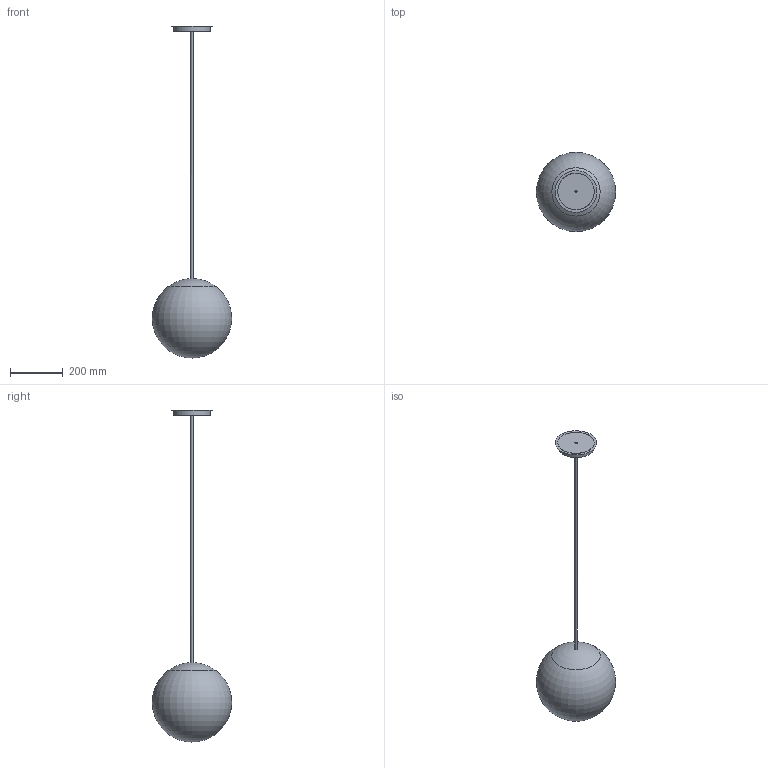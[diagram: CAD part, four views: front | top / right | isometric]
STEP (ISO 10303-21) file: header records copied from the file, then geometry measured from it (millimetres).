
FILE_DESCRIPTION(('STEP AP214'),'1');
FILE_NAME('Muna_300.stp','2018-12-19T00:25:44',(' '),(' '),'Spatial InterOp 3D',' ',' ');
FILE_SCHEMA(('AUTOMOTIVE_DESIGN { 1 0 10303 214 1 1 1 1 }'));
Length unit declared in the file: millimetre
Products named in the file (1): Bry_a
Bounding box: 299.79 x 299.96 x 1255.11 mm (x, y, z)
Volume: 14435215.3 mm3; surface area: 413854.3 mm2
Topology: 3 solids, 6 shells, 14 faces, 40 edges, 32 vertices
Faces by surface type: bspline 14
Entity records: 5570 total; most frequent: CARTESIAN_POINT 5292, ORIENTED_EDGE 45, EDGE_CURVE 28, VERTEX_POINT 28, DIRECTION 24, EDGE_LOOP 23, B_SPLINE_CURVE_WITH_KNOTS 22, B_SPLINE_SURFACE_WITH_KNOTS 14
